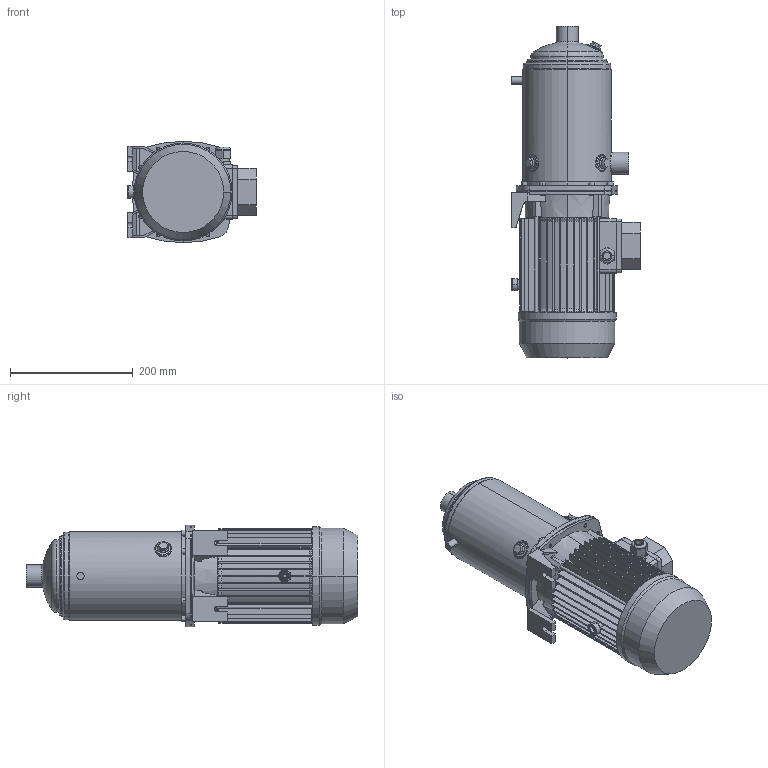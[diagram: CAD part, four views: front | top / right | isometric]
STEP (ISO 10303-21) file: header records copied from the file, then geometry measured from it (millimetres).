
FILE_DESCRIPTION((''),'2;1');
FILE_NAME('MATRIX_3-8T_1_3_IE3_ASM','2017-06-15T',('rosa'),('"Ebara Pumps Europe +39.444.706811"'),'PRO/ENGINEER BY PARAMETRIC TECHNOLOGY CORPORATION, 2012130','PRO/ENGINEER BY PARAMETRIC TECHNOLOGY CORPORATION, 2012130','');
FILE_SCHEMA(('AUTOMOTIVE_DESIGN { 1 0 10303 214 1 1 1 1 }'));
Length unit declared in the file: millimetre
Products named in the file (5): CORPO_POMPA_MATRIX_3-8; SUPPORTO_MATRIX_MEC_80; MEC_80X130_IE3; 72229; MATRIX_3-8T_1_3_IE3_ASM
Assembly tree (4 placements, depth 2):
  MATRIX_3-8T_1_3_IE3_ASM
    CORPO_POMPA_MATRIX_3-8
    SUPPORTO_MATRIX_MEC_80
    MEC_80X130_IE3
    72229
Bounding box: 209 x 539.8 x 165 mm (x, y, z)
Volume: 6533447.6 mm3; surface area: 609940.4 mm2
Topology: 4 solids, 4 shells, 721 faces, 1735 edges, 1071 vertices
Faces by surface type: plane 378, cylinder 188, cone 102, torus 37, bspline 14, sphere 2
Entity records: 28455 total; most frequent: CARTESIAN_POINT 5659, DIRECTION 3670, ORIENTED_EDGE 3470, EDGE_CURVE 1735, PRESENTATION_STYLE_ASSIGNMENT 1688, STYLED_ITEM 1688, CURVE_STYLE 1685, AXIS2_PLACEMENT_3D 1405
